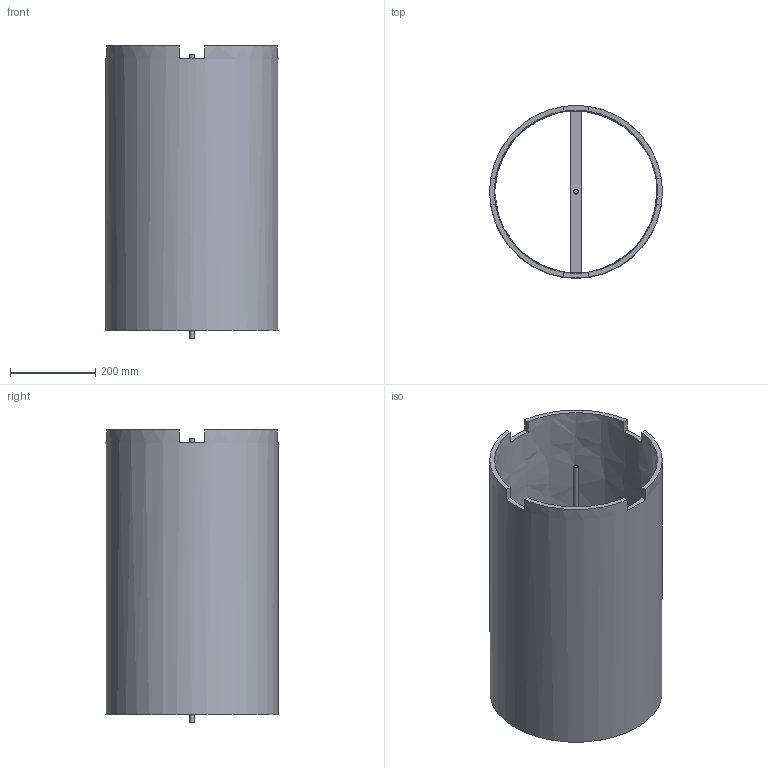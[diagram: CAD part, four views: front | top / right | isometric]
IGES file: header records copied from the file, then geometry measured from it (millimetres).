
Start section: Data from Parasolid IGES Translator 20.0.26, Copyright(c) 2006 Siemens P LM Software. All Rights Reserved.
Global section: file name: 45828.igs; native system: By Siemens PLM Incorporated; preprocessor: XPlus GENERIC/IGES 20.0.26; author: Noname; organization: Noname; date: 20210125.173804; units: millimetre
Bounding box: 405 x 405 x 686 mm (x, y, z)
Surface area: 1714809.7 mm2 (no closed solid volume)
Topology: 0 solids, 0 shells, 35 faces, 192 edges, 187 vertices
Faces by surface type: extrusion 31, revolution 4
